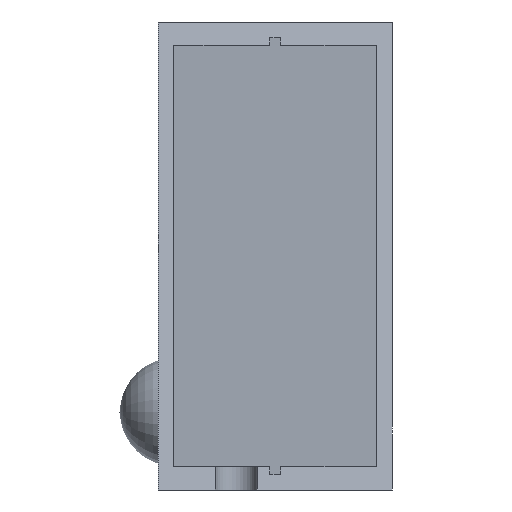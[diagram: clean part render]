
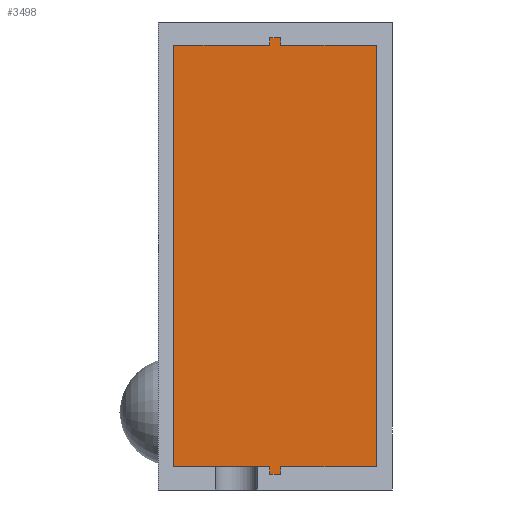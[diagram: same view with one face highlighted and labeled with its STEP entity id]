
A CAD part, left-side view. The second image highlights one B-rep face of the part: STEP entity #3498.
In plain terms, the highlighted planar face has unit normal (-1, 0, 0).
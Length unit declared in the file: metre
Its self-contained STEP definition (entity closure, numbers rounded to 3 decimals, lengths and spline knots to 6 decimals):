
#154=ORIENTED_EDGE('',*,*,#829,.F.);
#155=ORIENTED_EDGE('',*,*,#830,.T.);
#156=ORIENTED_EDGE('',*,*,#831,.T.);
#157=ORIENTED_EDGE('',*,*,#832,.T.);
#158=ORIENTED_EDGE('',*,*,#833,.T.);
#159=ORIENTED_EDGE('',*,*,#834,.T.);
#160=ORIENTED_EDGE('',*,*,#835,.T.);
#161=ORIENTED_EDGE('',*,*,#836,.T.);
#162=ORIENTED_EDGE('',*,*,#837,.F.);
#163=ORIENTED_EDGE('',*,*,#838,.T.);
#164=ORIENTED_EDGE('',*,*,#839,.F.);
#165=ORIENTED_EDGE('',*,*,#840,.T.);
#829=EDGE_CURVE('',#1165,#1166,#1402,.T.);
#830=EDGE_CURVE('',#1165,#1167,#1403,.T.);
#831=EDGE_CURVE('',#1167,#1168,#1404,.T.);
#832=EDGE_CURVE('',#1168,#1169,#1405,.T.);
#833=EDGE_CURVE('',#1169,#1170,#1406,.T.);
#834=EDGE_CURVE('',#1170,#1171,#1407,.T.);
#835=EDGE_CURVE('',#1171,#1172,#1408,.T.);
#836=EDGE_CURVE('',#1172,#1173,#1409,.T.);
#837=EDGE_CURVE('',#1174,#1173,#1410,.T.);
#838=EDGE_CURVE('',#1174,#1175,#1411,.T.);
#839=EDGE_CURVE('',#1176,#1175,#1412,.T.);
#840=EDGE_CURVE('',#1176,#1166,#1413,.T.);
#1165=VERTEX_POINT('',#4636);
#1166=VERTEX_POINT('',#4637);
#1167=VERTEX_POINT('',#4639);
#1168=VERTEX_POINT('',#4641);
#1169=VERTEX_POINT('',#4643);
#1170=VERTEX_POINT('',#4645);
#1171=VERTEX_POINT('',#4647);
#1172=VERTEX_POINT('',#4649);
#1173=VERTEX_POINT('',#4651);
#1174=VERTEX_POINT('',#4653);
#1175=VERTEX_POINT('',#4655);
#1176=VERTEX_POINT('',#4657);
#1402=LINE('',#4635,#1698);
#1403=LINE('',#4638,#1699);
#1404=LINE('',#4640,#1700);
#1405=LINE('',#4642,#1701);
#1406=LINE('',#4644,#1702);
#1407=LINE('',#4646,#1703);
#1408=LINE('',#4648,#1704);
#1409=LINE('',#4650,#1705);
#1410=LINE('',#4652,#1706);
#1411=LINE('',#4654,#1707);
#1412=LINE('',#4656,#1708);
#1413=LINE('',#4658,#1709);
#1698=VECTOR('',#3920,1.);
#1699=VECTOR('',#3921,1.);
#1700=VECTOR('',#3922,1.);
#1701=VECTOR('',#3923,1.);
#1702=VECTOR('',#3924,1.);
#1703=VECTOR('',#3925,1.);
#1704=VECTOR('',#3926,1.);
#1705=VECTOR('',#3927,1.);
#1706=VECTOR('',#3928,1.);
#1707=VECTOR('',#3929,1.);
#1708=VECTOR('',#3930,1.);
#1709=VECTOR('',#3931,1.);
#1965=EDGE_LOOP('',(#154,#155,#156,#157,#158,#159,#160,#161,#162,#163,#164,
#165));
#2159=FACE_BOUND('',#1965,.T.);
#2343=PLANE('',#3660);
#3498=ADVANCED_FACE('',(#2159),#2343,.T.);
#3660=AXIS2_PLACEMENT_3D('',#4634,#3918,#3919);
#3918=DIRECTION('',(-1.,0.,0.));
#3919=DIRECTION('',(0.,-1.,0.));
#3920=DIRECTION('',(0.,-1.,0.));
#3921=DIRECTION('',(0.,0.,-1.));
#3922=DIRECTION('',(0.,-1.,0.));
#3923=DIRECTION('',(0.,0.,-1.));
#3924=DIRECTION('',(0.,-1.,0.));
#3925=DIRECTION('',(0.,0.,1.));
#3926=DIRECTION('',(0.,-1.,0.));
#3927=DIRECTION('',(0.,0.,1.));
#3928=DIRECTION('',(0.,-1.,0.));
#3929=DIRECTION('',(0.,0.,1.));
#3930=DIRECTION('',(0.,-1.,0.));
#3931=DIRECTION('',(0.,0.,-1.));
#4634=CARTESIAN_POINT('',(-0.2,0.015,0.03));
#4635=CARTESIAN_POINT('',(-0.2,0.015,0.057));
#4636=CARTESIAN_POINT('',(-0.2,0.028,0.057));
#4637=CARTESIAN_POINT('',(-0.2,0.0157,0.057));
#4638=CARTESIAN_POINT('',(-0.2,0.028,0.03));
#4639=CARTESIAN_POINT('',(-0.2,0.028,0.003));
#4640=CARTESIAN_POINT('',(-0.2,0.015,0.003));
#4641=CARTESIAN_POINT('',(-0.2,0.0157,0.003));
#4642=CARTESIAN_POINT('',(-0.2,0.0157,0.03));
#4643=CARTESIAN_POINT('',(-0.2,0.0157,0.002));
#4644=CARTESIAN_POINT('',(-0.2,0.015,0.002));
#4645=CARTESIAN_POINT('',(-0.2,0.0143,0.002));
#4646=CARTESIAN_POINT('',(-0.2,0.0143,0.03));
#4647=CARTESIAN_POINT('',(-0.2,0.0143,0.003));
#4648=CARTESIAN_POINT('',(-0.2,0.015,0.003));
#4649=CARTESIAN_POINT('',(-0.2,0.002,0.003));
#4650=CARTESIAN_POINT('',(-0.2,0.002,0.03));
#4651=CARTESIAN_POINT('',(-0.2,0.002,0.057));
#4652=CARTESIAN_POINT('',(-0.2,0.015,0.057));
#4653=CARTESIAN_POINT('',(-0.2,0.0143,0.057));
#4654=CARTESIAN_POINT('',(-0.2,0.0143,0.0575));
#4655=CARTESIAN_POINT('',(-0.2,0.0143,0.058));
#4656=CARTESIAN_POINT('',(-0.2,0.015,0.058));
#4657=CARTESIAN_POINT('',(-0.2,0.0157,0.058));
#4658=CARTESIAN_POINT('',(-0.2,0.0157,0.0575));
